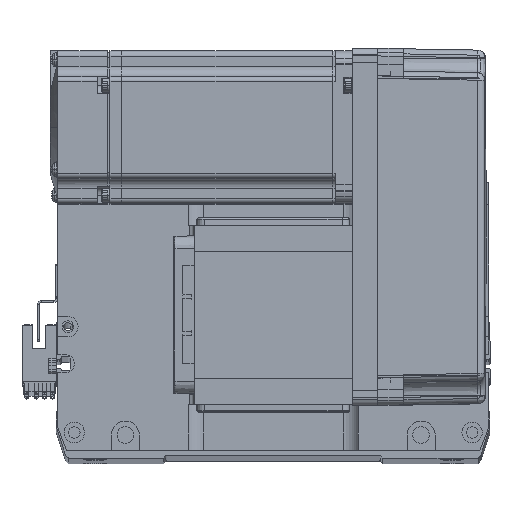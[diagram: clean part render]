
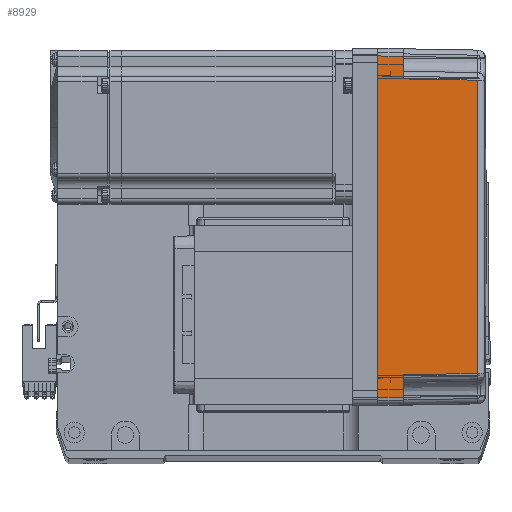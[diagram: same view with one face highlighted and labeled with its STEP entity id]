
A CAD part, top view. The second image highlights one B-rep face of the part: STEP entity #8929.
In plain terms, the highlighted planar face has unit normal (0.018, 0, 1) as drawn and (0, -1, 0.017) by its records, which use the part's own axes.
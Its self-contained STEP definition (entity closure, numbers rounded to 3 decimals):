
#3367 = VECTOR ( 'NONE', #31925, 1000. ) ;
#3937 = EDGE_CURVE ( 'NONE', #19150, #23850, #50694, .T. ) ;
#5045 = DIRECTION ( 'NONE',  ( -0.017, 0.017, 1. ) ) ;
#5528 = VERTEX_POINT ( 'NONE', #45195 ) ;
#6766 = ORIENTED_EDGE ( 'NONE', *, *, #35944, .T. ) ;
#7083 = CARTESIAN_POINT ( 'NONE',  ( -57.495, -35.32, 38.985 ) ) ;
#8597 = EDGE_CURVE ( 'NONE', #33763, #19150, #31260, .T. ) ;
#8884 = DIRECTION ( 'NONE',  ( -0.017, -0.017, -1. ) ) ;
#8929 = ADVANCED_FACE ( 'NONE', ( #61992 ), #29887, .T. ) ;
#9408 = DIRECTION ( 'NONE',  ( 0.017, 0.017, 1. ) ) ;
#10625 = ORIENTED_EDGE ( 'NONE', *, *, #31950, .T. ) ;
#10804 = EDGE_LOOP ( 'NONE', ( #35078, #61898, #6766, #19541, #10625, #37570, #41503, #33397 ) ) ;
#11239 = VECTOR ( 'NONE', #9408, 1000. ) ;
#12130 = DIRECTION ( 'NONE',  ( -1., 0., 0. ) ) ;
#12780 = CARTESIAN_POINT ( 'NONE',  ( 0., -36., 0. ) ) ;
#12864 = VECTOR ( 'NONE', #5045, 1000. ) ;
#13797 = CARTESIAN_POINT ( 'NONE',  ( 70., -35.825, 10. ) ) ;
#14605 = DIRECTION ( 'NONE',  ( 0., -1., 0.017 ) ) ;
#15031 = CARTESIAN_POINT ( 'NONE',  ( -66.959, -35.958, 2.39 ) ) ;
#15763 = VERTEX_POINT ( 'NONE', #57577 ) ;
#16632 = CARTESIAN_POINT ( 'NONE',  ( 70., -35.825, 10. ) ) ;
#17376 = VECTOR ( 'NONE', #12130, 1000. ) ;
#18188 = VECTOR ( 'NONE', #54043, 1000. ) ;
#19150 = VERTEX_POINT ( 'NONE', #34432 ) ;
#19541 = ORIENTED_EDGE ( 'NONE', *, *, #50319, .T. ) ;
#19763 = VERTEX_POINT ( 'NONE', #7083 ) ;
#19781 = CARTESIAN_POINT ( 'NONE',  ( 58., -35.825, 10. ) ) ;
#19965 = B_SPLINE_CURVE_WITH_KNOTS ( 'NONE', 3,
 ( #27782, #61768, #32327, #37226 ),
 .UNSPECIFIED., .F., .F.,
 ( 4, 4 ),
 ( 0., 1. ),
 .UNSPECIFIED. ) ;
#23742 = VERTEX_POINT ( 'NONE', #47108 ) ;
#23850 = VERTEX_POINT ( 'NONE', #19781 ) ;
#24018 = CARTESIAN_POINT ( 'NONE',  ( -67., -36., 0. ) ) ;
#24804 = CARTESIAN_POINT ( 'NONE',  ( 67., -36., 0. ) ) ;
#27782 = CARTESIAN_POINT ( 'NONE',  ( 57.495, -35.32, 38.985 ) ) ;
#29887 = PLANE ( 'NONE',  #58052 ) ;
#31181 = LINE ( 'NONE', #16632, #3367 ) ;
#31260 = LINE ( 'NONE', #24804, #18188 ) ;
#31925 = DIRECTION ( 'NONE',  ( -1., 0., 0. ) ) ;
#31950 = EDGE_CURVE ( 'NONE', #19763, #5528, #47264, .T. ) ;
#32327 = CARTESIAN_POINT ( 'NONE',  ( -19.165, -35.316, 39.181 ) ) ;
#33397 = ORIENTED_EDGE ( 'NONE', *, *, #50788, .F. ) ;
#33763 = VERTEX_POINT ( 'NONE', #37943 ) ;
#34207 = VECTOR ( 'NONE', #8884, 1000. ) ;
#34432 = CARTESIAN_POINT ( 'NONE',  ( 66.826, -35.825, 10. ) ) ;
#34476 = DIRECTION ( 'NONE',  ( 0., -0.017, -1. ) ) ;
#34650 = CARTESIAN_POINT ( 'NONE',  ( 58., -35.825, 10. ) ) ;
#35078 = ORIENTED_EDGE ( 'NONE', *, *, #8597, .T. ) ;
#35944 = EDGE_CURVE ( 'NONE', #23850, #15763, #57495, .T. ) ;
#37226 = CARTESIAN_POINT ( 'NONE',  ( -57.495, -35.32, 38.985 ) ) ;
#37570 = ORIENTED_EDGE ( 'NONE', *, *, #58952, .T. ) ;
#37943 = CARTESIAN_POINT ( 'NONE',  ( 67., -36., 0. ) ) ;
#41503 = ORIENTED_EDGE ( 'NONE', *, *, #62547, .F. ) ;
#42081 = LINE ( 'NONE', #15031, #11239 ) ;
#43810 = VECTOR ( 'NONE', #48475, 1000. ) ;
#45195 = CARTESIAN_POINT ( 'NONE',  ( -58., -35.825, 10. ) ) ;
#47108 = CARTESIAN_POINT ( 'NONE',  ( -66.826, -35.825, 10. ) ) ;
#47264 = LINE ( 'NONE', #58387, #34207 ) ;
#48475 = DIRECTION ( 'NONE',  ( -1., 0., 0. ) ) ;
#50319 = EDGE_CURVE ( 'NONE', #15763, #19763, #19965, .T. ) ;
#50694 = LINE ( 'NONE', #13797, #43810 ) ;
#50788 = EDGE_CURVE ( 'NONE', #33763, #56909, #62814, .T. ) ;
#54043 = DIRECTION ( 'NONE',  ( -0.017, 0.017, 1. ) ) ;
#54186 = CARTESIAN_POINT ( 'NONE',  ( 70., -36., 0. ) ) ;
#56909 = VERTEX_POINT ( 'NONE', #24018 ) ;
#57495 = LINE ( 'NONE', #34650, #12864 ) ;
#57577 = CARTESIAN_POINT ( 'NONE',  ( 57.495, -35.32, 38.985 ) ) ;
#58052 = AXIS2_PLACEMENT_3D ( 'NONE', #54186, #14605, #34476 ) ;
#58387 = CARTESIAN_POINT ( 'NONE',  ( -57.495, -35.32, 38.985 ) ) ;
#58952 = EDGE_CURVE ( 'NONE', #5528, #23742, #31181, .T. ) ;
#61768 = CARTESIAN_POINT ( 'NONE',  ( 19.165, -35.316, 39.181 ) ) ;
#61898 = ORIENTED_EDGE ( 'NONE', *, *, #3937, .T. ) ;
#61992 = FACE_OUTER_BOUND ( 'NONE', #10804, .T. ) ;
#62547 = EDGE_CURVE ( 'NONE', #56909, #23742, #42081, .T. ) ;
#62814 = LINE ( 'NONE', #12780, #17376 ) ;
